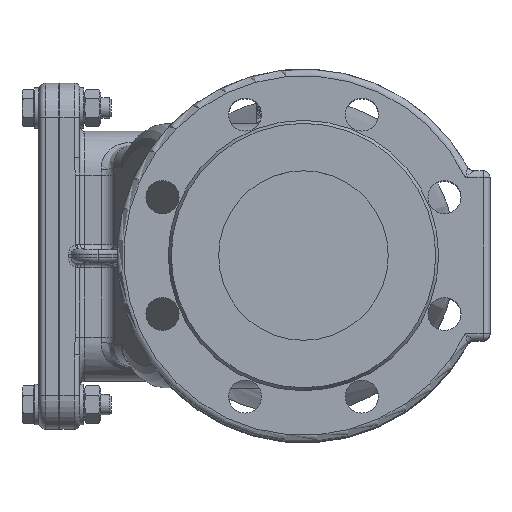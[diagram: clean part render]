
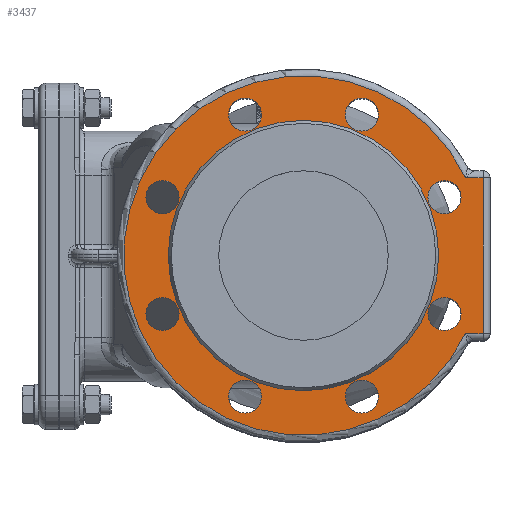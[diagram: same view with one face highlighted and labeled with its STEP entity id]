
A CAD part, top view. The second image highlights one B-rep face of the part: STEP entity #3437.
In plain terms, the highlighted planar face has unit normal (0, 0, 1).
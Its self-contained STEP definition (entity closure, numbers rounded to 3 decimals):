
#3437=ADVANCED_FACE('',(#10015,#10017,#10019,#10021,#10023,#10025,#10027,#10029,
#10031,#10033),#10035,.T.);
#10015=FACE_BOUND('',#10016,.T.);
#10016=EDGE_LOOP('',(#14094,#14095,#14096,#14097));
#10017=FACE_BOUND('',#10018,.T.);
#10018=EDGE_LOOP('',(#14098));
#10019=FACE_BOUND('',#10020,.T.);
#10020=EDGE_LOOP('',(#14099));
#10021=FACE_BOUND('',#10022,.T.);
#10022=EDGE_LOOP('',(#14100));
#10023=FACE_BOUND('',#10024,.T.);
#10024=EDGE_LOOP('',(#14101));
#10025=FACE_BOUND('',#10026,.T.);
#10026=EDGE_LOOP('',(#14102));
#10027=FACE_BOUND('',#10028,.T.);
#10028=EDGE_LOOP('',(#14103));
#10029=FACE_BOUND('',#10030,.T.);
#10030=EDGE_LOOP('',(#14104));
#10031=FACE_BOUND('',#10032,.T.);
#10032=EDGE_LOOP('',(#14105));
#10033=FACE_BOUND('',#10034,.T.);
#10034=EDGE_LOOP('',(#14106));
#10035=PLANE('',#10036);
#10036=AXIS2_PLACEMENT_3D('',#10037,#10038,#10039);
#10037=CARTESIAN_POINT('',(0.,0.,297.));
#10038=DIRECTION('',(0.,0.,1.));
#10039=DIRECTION('',(-1.,0.,0.));
#14094=ORIENTED_EDGE('',*,*,#16576,.T.);
#14095=ORIENTED_EDGE('',*,*,#16577,.F.);
#14096=ORIENTED_EDGE('',*,*,#16578,.F.);
#14097=ORIENTED_EDGE('',*,*,#16579,.F.);
#14098=ORIENTED_EDGE('',*,*,#16580,.F.);
#14099=ORIENTED_EDGE('',*,*,#16510,.F.);
#14100=ORIENTED_EDGE('',*,*,#16511,.F.);
#14101=ORIENTED_EDGE('',*,*,#16512,.F.);
#14102=ORIENTED_EDGE('',*,*,#16513,.F.);
#14103=ORIENTED_EDGE('',*,*,#16514,.T.);
#14104=ORIENTED_EDGE('',*,*,#16515,.T.);
#14105=ORIENTED_EDGE('',*,*,#16516,.T.);
#14106=ORIENTED_EDGE('',*,*,#16517,.T.);
#16510=EDGE_CURVE('',#18697,#18697,#18698,.T.);
#16511=EDGE_CURVE('',#18699,#18699,#18700,.T.);
#16512=EDGE_CURVE('',#18701,#18701,#18702,.T.);
#16513=EDGE_CURVE('',#18703,#18703,#18704,.T.);
#16514=EDGE_CURVE('',#18705,#18705,#18706,.T.);
#16515=EDGE_CURVE('',#18707,#18707,#18708,.T.);
#16516=EDGE_CURVE('',#18709,#18709,#18710,.T.);
#16517=EDGE_CURVE('',#18711,#18711,#18712,.T.);
#16576=EDGE_CURVE('',#18801,#18802,#18803,.T.);
#16577=EDGE_CURVE('',#18804,#18802,#18805,.T.);
#16578=EDGE_CURVE('',#18806,#18804,#18807,.T.);
#16579=EDGE_CURVE('',#18801,#18806,#18808,.T.);
#16580=EDGE_CURVE('',#18809,#18809,#18810,.T.);
#18697=VERTEX_POINT('',#39499);
#18698=CIRCLE('',#39500,9.75);
#18699=VERTEX_POINT('',#39504);
#18700=CIRCLE('',#39505,9.75);
#18701=VERTEX_POINT('',#39509);
#18702=CIRCLE('',#39510,9.75);
#18703=VERTEX_POINT('',#39514);
#18704=CIRCLE('',#39515,9.75);
#18705=VERTEX_POINT('',#39519);
#18706=CIRCLE('',#39520,9.75);
#18707=VERTEX_POINT('',#39524);
#18708=CIRCLE('',#39525,9.75);
#18709=VERTEX_POINT('',#39529);
#18710=CIRCLE('',#39530,9.75);
#18711=VERTEX_POINT('',#39534);
#18712=CIRCLE('',#39535,9.75);
#18801=VERTEX_POINT('',#40349);
#18802=VERTEX_POINT('',#40350);
#18803=LINE('',#40351,#40352);
#18804=VERTEX_POINT('',#40354);
#18805=LINE('',#40355,#40356);
#18806=VERTEX_POINT('',#40358);
#18807=LINE('',#40359,#40360);
#18808=CIRCLE('',#40362,106.);
#18809=VERTEX_POINT('',#40366);
#18810=CIRCLE('',#40367,79.732);
#39499=CARTESIAN_POINT('',(-34.442,-73.399,297.));
#39500=AXIS2_PLACEMENT_3D('',#39501,#39502,#39503);
#39501=CARTESIAN_POINT('',(-34.442,-83.149,297.));
#39502=DIRECTION('',(0.,0.,1.));
#39503=DIRECTION('',(1.,0.,0.));
#39504=CARTESIAN_POINT('',(-83.149,-24.692,297.));
#39505=AXIS2_PLACEMENT_3D('',#39506,#39507,#39508);
#39506=CARTESIAN_POINT('',(-83.149,-34.442,297.));
#39507=DIRECTION('',(0.,0.,1.));
#39508=DIRECTION('',(1.,0.,0.));
#39509=CARTESIAN_POINT('',(34.442,-73.399,297.));
#39510=AXIS2_PLACEMENT_3D('',#39511,#39512,#39513);
#39511=CARTESIAN_POINT('',(34.442,-83.149,297.));
#39512=DIRECTION('',(0.,0.,1.));
#39513=DIRECTION('',(1.,0.,0.));
#39514=CARTESIAN_POINT('',(83.149,-24.692,297.));
#39515=AXIS2_PLACEMENT_3D('',#39516,#39517,#39518);
#39516=CARTESIAN_POINT('',(83.149,-34.442,297.));
#39517=DIRECTION('',(0.,0.,1.));
#39518=DIRECTION('',(1.,0.,0.));
#39519=CARTESIAN_POINT('',(-34.442,73.399,297.));
#39520=AXIS2_PLACEMENT_3D('',#39521,#39522,#39523);
#39521=CARTESIAN_POINT('',(-34.442,83.149,297.));
#39522=DIRECTION('',(0.,0.,-1.));
#39523=DIRECTION('',(1.,0.,0.));
#39524=CARTESIAN_POINT('',(-83.149,24.692,297.));
#39525=AXIS2_PLACEMENT_3D('',#39526,#39527,#39528);
#39526=CARTESIAN_POINT('',(-83.149,34.442,297.));
#39527=DIRECTION('',(0.,0.,-1.));
#39528=DIRECTION('',(1.,0.,0.));
#39529=CARTESIAN_POINT('',(34.442,73.399,297.));
#39530=AXIS2_PLACEMENT_3D('',#39531,#39532,#39533);
#39531=CARTESIAN_POINT('',(34.442,83.149,297.));
#39532=DIRECTION('',(0.,0.,-1.));
#39533=DIRECTION('',(1.,0.,0.));
#39534=CARTESIAN_POINT('',(83.149,24.692,297.));
#39535=AXIS2_PLACEMENT_3D('',#39536,#39537,#39538);
#39536=CARTESIAN_POINT('',(83.149,34.442,297.));
#39537=DIRECTION('',(0.,0.,-1.));
#39538=DIRECTION('',(1.,0.,0.));
#40349=CARTESIAN_POINT('',(95.499,-46.,297.));
#40350=CARTESIAN_POINT('',(106.,-46.,297.));
#40351=CARTESIAN_POINT('',(95.499,-46.,297.));
#40352=VECTOR('',#40353,1.);
#40353=DIRECTION('',(1.,0.,0.));
#40354=CARTESIAN_POINT('',(106.,46.,297.));
#40355=CARTESIAN_POINT('',(106.,46.,297.));
#40356=VECTOR('',#40357,1.);
#40357=DIRECTION('',(0.,-1.,0.));
#40358=CARTESIAN_POINT('',(95.499,46.,297.));
#40359=CARTESIAN_POINT('',(95.499,46.,297.));
#40360=VECTOR('',#40361,1.);
#40361=DIRECTION('',(1.,0.,0.));
#40362=AXIS2_PLACEMENT_3D('',#40363,#40364,#40365);
#40363=CARTESIAN_POINT('',(0.,0.,297.));
#40364=DIRECTION('',(0.,0.,-1.));
#40365=DIRECTION('',(0.901,-0.434,0.));
#40366=CARTESIAN_POINT('',(-79.732,0.,297.));
#40367=AXIS2_PLACEMENT_3D('',#40368,#40369,#40370);
#40368=CARTESIAN_POINT('',(0.,0.,297.));
#40369=DIRECTION('',(0.,0.,1.));
#40370=DIRECTION('',(1.,0.,0.));
